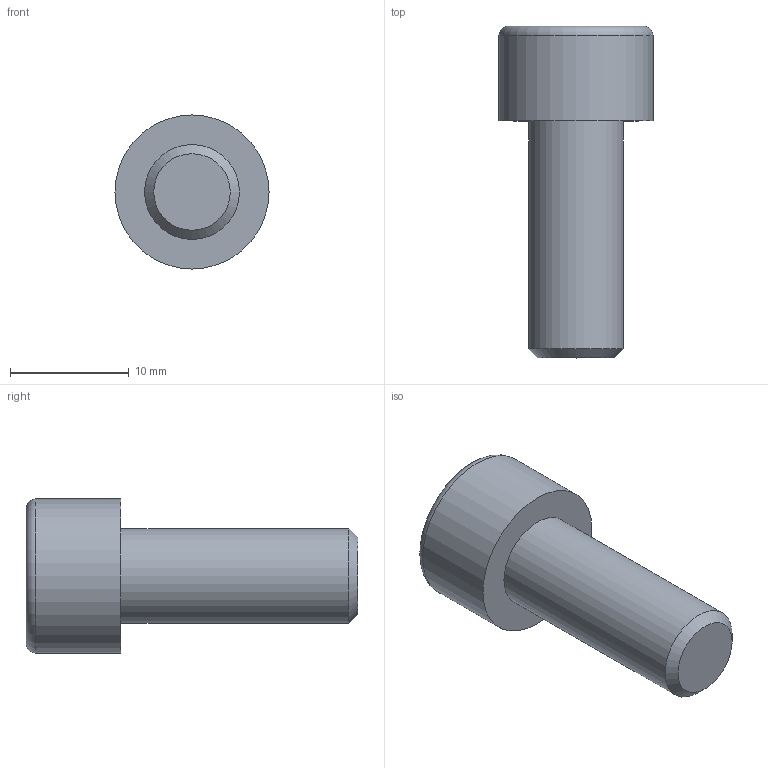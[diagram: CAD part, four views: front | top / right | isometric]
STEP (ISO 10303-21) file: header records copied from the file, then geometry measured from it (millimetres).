
FILE_DESCRIPTION(/* description */ (''),/* implementation_level */ '2;1');
FILE_NAME(/* name */ 'C:\Users\D\Documents\Inventor\各種小物\JIS\JIS B 1176 六角穴付きボルト\M8x20.stp',/* time_stamp */ '2022-05-09T18:52:34+09:00',/* author */ ('D'),/* organization */ (''),/* preprocessor_version */ 'ST-DEVELOPER v18',/* originating_system */ 'Autodesk Inventor 2020',/* authorisation */ '');
FILE_SCHEMA (('AUTOMOTIVE_DESIGN { 1 0 10303 214 3 1 1 }'));
Length unit declared in the file: millimetre
Products named in the file (1): M1.6x2.5
Bounding box: 13 x 28 x 13 mm (x, y, z)
Volume: 1905.6 mm3; surface area: 1160 mm2
Topology: 1 solids, 1 shells, 14 faces, 33 edges, 22 vertices
Faces by surface type: plane 9, cone 2, cylinder 2, torus 1
Full cylindrical faces by diameter (mm): 8 x1, 13 x1
Entity records: 435 total; most frequent: CARTESIAN_POINT 83, ORIENTED_EDGE 64, DIRECTION 64, EDGE_CURVE 32, AXIS2_PLACEMENT_3D 24, VERTEX_POINT 22, EDGE_LOOP 16, LINE 16
